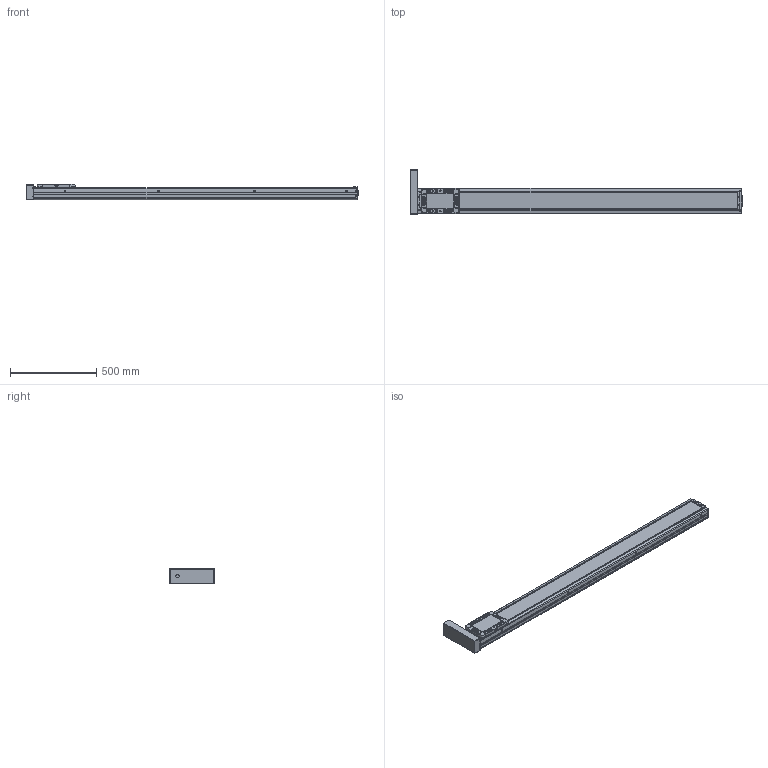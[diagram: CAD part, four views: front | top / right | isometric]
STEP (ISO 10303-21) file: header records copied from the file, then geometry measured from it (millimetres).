
FILE_DESCRIPTION(('STEP AP214'),'1');
FILE_NAME('Z:/Web/3D/SAN150/2013.04 (STP.)/SAN150ㅁㅁ-1600PL.stp','2013-05-07T08:21:13',(' '),(' '),'Spatial InterOp 3D',' ',' ');
FILE_SCHEMA(('automotive_design'));
Length unit declared in the file: millimetre
Products named in the file (44): BHCS M3.0 x 6.0; P; SLBL-SAN150; SLCV-SAN150; FHCS M4.0 x 8.0; BHCS M4.0 x 10.0; SFX-SAN150; RRCV-SAN150; FRBL-SAN150; Spacer; RN15; FRCV-SAN150; Screw 20; BASE-SAN150-000L ; SUS COVER; 스크루 : Round - M5.0 x 6.0
Bounding box: 1920 x 260.73 x 90 mm (x, y, z)
Volume: 10492320.9 mm3; surface area: 1829981 mm2
Topology: 44 solids, 44 shells, 2455 faces, 6302 edges, 3991 vertices
Faces by surface type: plane 1099, cylinder 909, cone 346, sphere 68, bspline 21, torus 12
Entity records: 97936 total; most frequent: CARTESIAN_POINT 16642, DIRECTION 13420, ORIENTED_EDGE 12284, EDGE_CURVE 6142, AXIS2_PLACEMENT_3D 4932, VERTEX_POINT 3991, LINE 3556, VECTOR 3556
